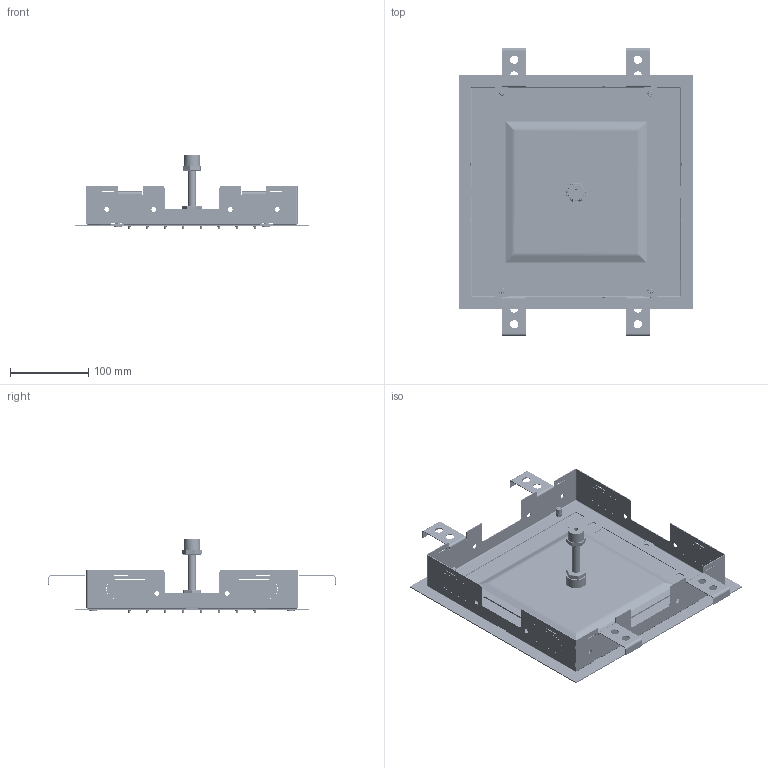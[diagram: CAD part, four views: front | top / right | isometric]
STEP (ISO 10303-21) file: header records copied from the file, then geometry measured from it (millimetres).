
FILE_DESCRIPTION (( 'STEP AP203' ), '1' );
FILE_NAME ('PIA12G.STEP', '2025-02-07T15:01:19', ( '' ), ( '' ), 'SwSTEP 2.0', 'SolidWorks 2024', '' );
FILE_SCHEMA (( 'CONFIG_CONTROL_DESIGN' ));
Length unit declared in the file: millimetre
Products named in the file (12): PIA12G; M-1775; M-1738; M-1698; T-RA003; M-1774; ATT MEZZO POLL; P-00100; T-RA034; TUBO 10_2; S-00104; M-1720
Assembly tree (80 placements, depth 3):
  PIA12G
    M-1720
    M-1738
      M-1774
      M-1775
      P-00100  x64
      T-RA003
    M-1698
    S-00104  x3
    T-RA034  x4
    TUBO 10_2
    ATT MEZZO POLL  x2
Bounding box: 300 x 368 x 94.27 mm (x, y, z)
Volume: 312301.1 mm3; surface area: 516340.4 mm2
Topology: 79 solids, 79 shells, 3878 faces, 9939 edges, 6361 vertices
Faces by surface type: bspline 1679, cylinder 1214, plane 794, cone 191
Entity records: 38952 total; most frequent: CARTESIAN_POINT 8429, DIRECTION 5752, ORIENTED_EDGE 5656, EDGE_CURVE 2828, AXIS2_PLACEMENT_3D 2064, VERTEX_POINT 1826, VECTOR 1624, LINE 1624
